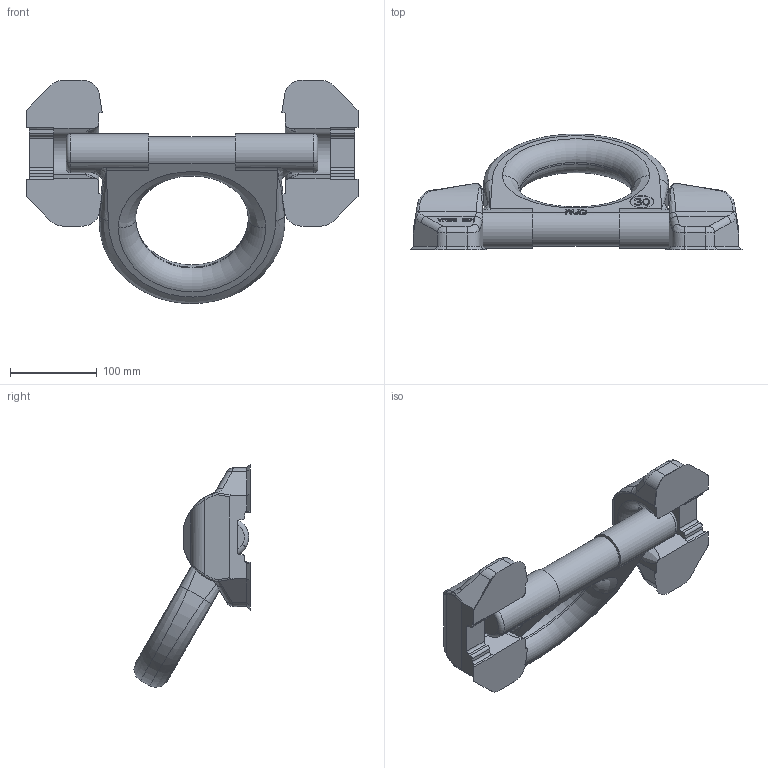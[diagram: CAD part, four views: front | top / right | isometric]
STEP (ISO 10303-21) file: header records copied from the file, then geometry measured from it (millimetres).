
FILE_DESCRIPTION((''),'2;1');
FILE_NAME('001-M06828-P-60_ASM','2008-10-28T',('Azubitbm'),('RAND'),'PRO/ENGINEER BY PARAMETRIC TECHNOLOGY CORPORATION, 2005030','PRO/ENGINEER BY PARAMETRIC TECHNOLOGY CORPORATION, 2005030','');
FILE_SCHEMA(('CONFIG_CONTROL_DESIGN'));
Length unit declared in the file: millimetre
Products named in the file (3): 001-M06480-RT1; 001-M06426-RT1; 001-M06828-P-60_ASM
Assembly tree (3 placements, depth 2):
  001-M06828-P-60_ASM
    001-M06480-RT1  x2
    001-M06426-RT1
Bounding box: 383 x 133.93 x 257.43 mm (x, y, z)
Volume: 2131132.2 mm3; surface area: 196322.6 mm2
Topology: 3 solids, 3 shells, 953 faces, 2636 edges, 1714 vertices
Faces by surface type: plane 789, bspline 78, cylinder 70, cone 8, torus 8
Entity records: 22597 total; most frequent: CARTESIAN_POINT 7674, ORIENTED_EDGE 3290, DIRECTION 2747, EDGE_CURVE 1645, VECTOR 1399, LINE 1399, VERTEX_POINT 1072, AXIS2_PLACEMENT_3D 674
